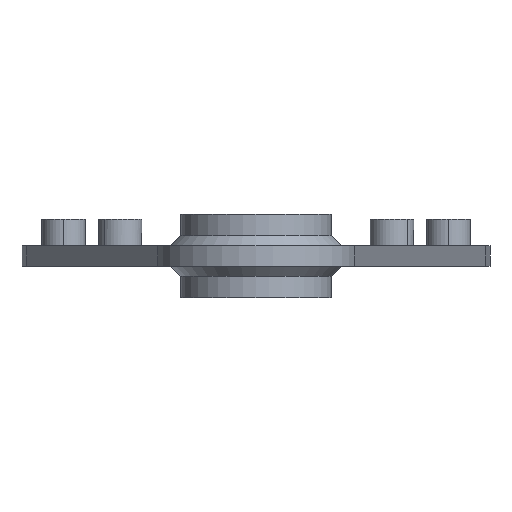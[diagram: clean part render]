
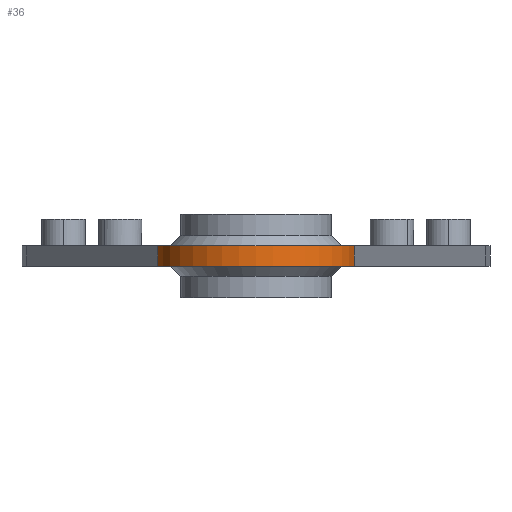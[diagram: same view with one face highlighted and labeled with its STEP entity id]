
A CAD part, front view. The second image highlights one B-rep face of the part: STEP entity #36.
In plain terms, the highlighted cylindrical face has radius 30 mm (diameter 60 mm), a partial arc.
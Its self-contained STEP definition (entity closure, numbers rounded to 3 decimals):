
#36=ADVANCED_FACE('',(#80),#716,.T.);
#80=FACE_OUTER_BOUND('',#124,.T.);
#124=EDGE_LOOP('',(#194,#195,#196,#197));
#194=ORIENTED_EDGE('',*,*,#391,.T.);
#195=ORIENTED_EDGE('',*,*,#381,.T.);
#196=ORIENTED_EDGE('',*,*,#392,.T.);
#197=ORIENTED_EDGE('',*,*,#386,.T.);
#381=EDGE_CURVE('',#643,#645,#609,.T.);
#386=EDGE_CURVE('',#649,#648,#612,.T.);
#391=EDGE_CURVE('',#648,#643,#482,.T.);
#392=EDGE_CURVE('',#645,#649,#483,.T.);
#482=TRIMMED_CURVE($,#546,(#1394),(#1395),.T.,.CARTESIAN.);
#483=TRIMMED_CURVE($,#547,(#1397),(#1398),.T.,.CARTESIAN.);
#546=CIRCLE('',#975,30.);
#547=CIRCLE('',#976,30.);
#609=B_SPLINE_CURVE_WITH_KNOTS('',1,(#1369,#1370),.UNSPECIFIED.,.F.,.F.,
(2,2),(-6.,0.),.UNSPECIFIED.);
#612=B_SPLINE_CURVE_WITH_KNOTS('',1,(#1381,#1382),.UNSPECIFIED.,.F.,.F.,
(2,2),(-6.,0.),.UNSPECIFIED.);
#643=VERTEX_POINT('',#1296);
#645=VERTEX_POINT('',#1298);
#648=VERTEX_POINT('',#1301);
#649=VERTEX_POINT('',#1302);
#716=CYLINDRICAL_SURFACE('',#935,30.);
#935=AXIS2_PLACEMENT_3D('',#1219,#1045,$);
#975=AXIS2_PLACEMENT_3D($,#1393,#1089,#1090);
#976=AXIS2_PLACEMENT_3D($,#1396,#1091,#1092);
#1045=DIRECTION('',(0.,0.,-1.));
#1089=DIRECTION('',(0.,0.,1.));
#1090=DIRECTION('',(-0.98,-0.2,0.));
#1091=DIRECTION('',(0.,0.,-1.));
#1092=DIRECTION('',(0.98,-0.2,0.));
#1219=CARTESIAN_POINT('',(0.,-200.,0.));
#1296=CARTESIAN_POINT('',(29.394,-206.,-3.));
#1298=CARTESIAN_POINT('',(29.394,-206.,3.));
#1301=CARTESIAN_POINT('',(-29.394,-206.,-3.));
#1302=CARTESIAN_POINT('',(-29.394,-206.,3.));
#1369=CARTESIAN_POINT('',(29.394,-206.,-3.));
#1370=CARTESIAN_POINT('',(29.394,-206.,3.));
#1381=CARTESIAN_POINT('',(-29.394,-206.,3.));
#1382=CARTESIAN_POINT('',(-29.394,-206.,-3.));
#1393=CARTESIAN_POINT('',(0.,-200.,-3.));
#1394=CARTESIAN_POINT('',(-29.394,-206.,-3.));
#1395=CARTESIAN_POINT('',(29.394,-206.,-3.));
#1396=CARTESIAN_POINT('',(0.,-200.,3.));
#1397=CARTESIAN_POINT('',(29.394,-206.,3.));
#1398=CARTESIAN_POINT('',(-29.394,-206.,3.));
